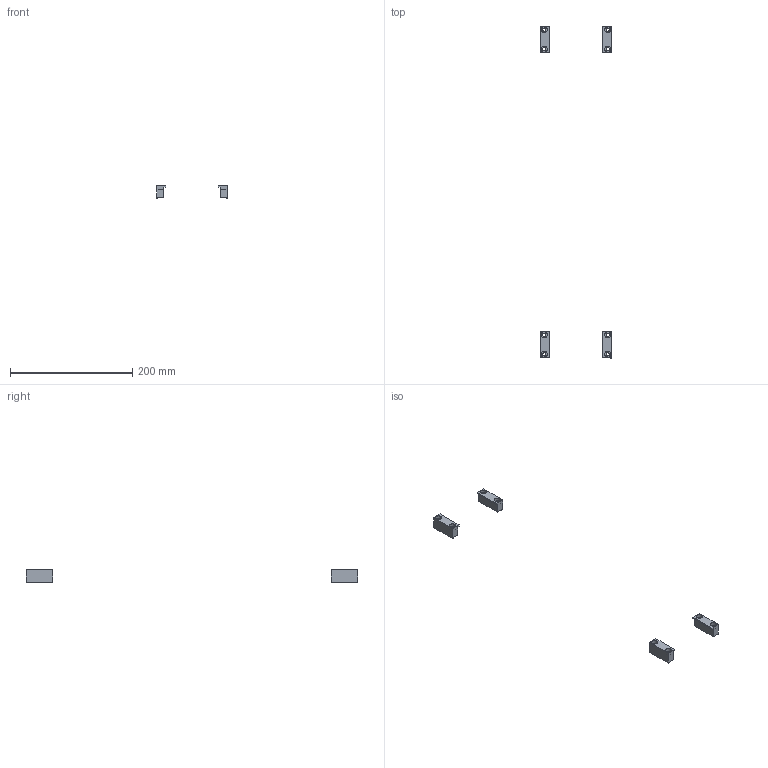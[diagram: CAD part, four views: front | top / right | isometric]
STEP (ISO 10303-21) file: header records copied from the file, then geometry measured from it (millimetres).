
FILE_DESCRIPTION(/* description */ ('Toe Clamps - Middle 44 mm (4 pcs)'),/* implementation_level */ '2;1');
FILE_NAME(/* name */ 'D:\InventorWorkspace2017\CAD\Projekte_EDEM\HLR\0232.901-02.stp',/* time_stamp */ '2019-02-13T12:20:43+01:00',/* author */ ('AR64535'),/* organization */ (''),/* preprocessor_version */ 'ST-DEVELOPER v16.5',/* originating_system */ 'Autodesk Inventor 2017',/* authorisation */ '');
FILE_SCHEMA (('AUTOMOTIVE_DESIGN { 1 0 10303 214 3 1 1 }'));
Length unit declared in the file: millimetre
Products named in the file (2): 0232.901-02; 0231.033
Assembly tree (4 placements, depth 2):
  0232.901-02
    0231.033  x4
Bounding box: 116 x 544 x 19.9 mm (x, y, z)
Volume: 35630 mm3; surface area: 17018.3 mm2
Topology: 4 solids, 4 shells, 64 faces, 144 edges, 96 vertices
Faces by surface type: plane 48, cylinder 16
Full cylindrical faces by diameter (mm): 5.5 x8, 10 x8
Entity records: 516 total; most frequent: DIRECTION 84, CARTESIAN_POINT 78, ORIENTED_EDGE 64, EDGE_CURVE 32, AXIS2_PLACEMENT_3D 30, EDGE_LOOP 26, LINE 24, VECTOR 24
